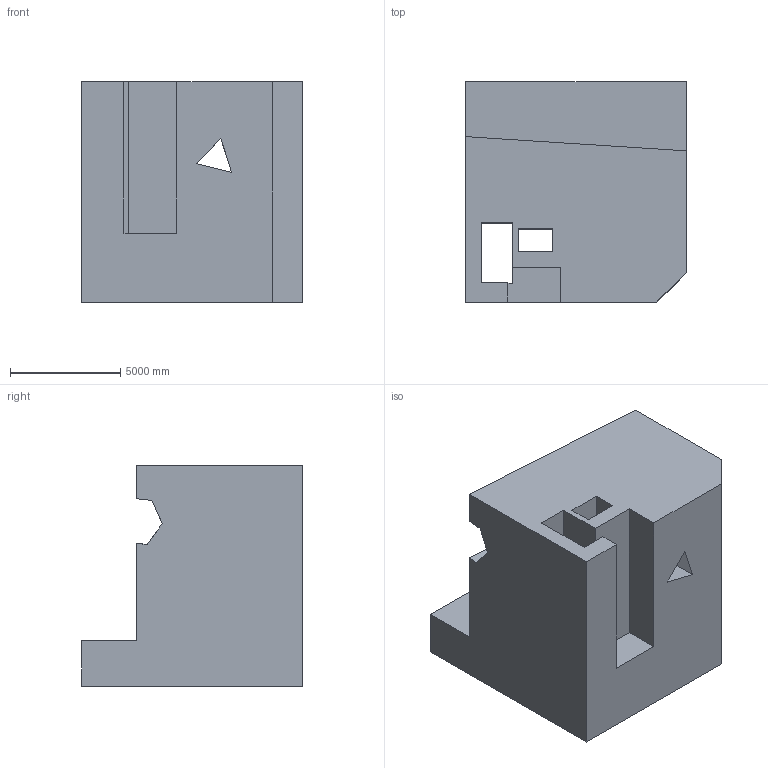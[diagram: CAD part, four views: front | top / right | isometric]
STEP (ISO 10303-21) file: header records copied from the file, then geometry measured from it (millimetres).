
FILE_DESCRIPTION (( 'STEP AP203' ), '1' );
FILE_NAME ('610.STEP', '2022-07-29T12:04:55', ( 'user' ), ( '' ), 'SwSTEP 2.0', 'SolidWorks 2021', '' );
FILE_SCHEMA (( 'CONFIG_CONTROL_DESIGN' ));
Length unit declared in the file: centimetre
Products named in the file (1): 610
Bounding box: 10000 x 10000 x 10000 mm (x, y, z)
Volume: 668688379703.4 mm3; surface area: 715383778.6 mm2
Topology: 1 solids, 1 shells, 31 faces, 93 edges, 62 vertices
Faces by surface type: plane 31
Entity records: 1116 total; most frequent: CARTESIAN_POINT 187, ORIENTED_EDGE 186, DIRECTION 157, EDGE_CURVE 93, LINE 93, VECTOR 93, VERTEX_POINT 62, EDGE_LOOP 35
